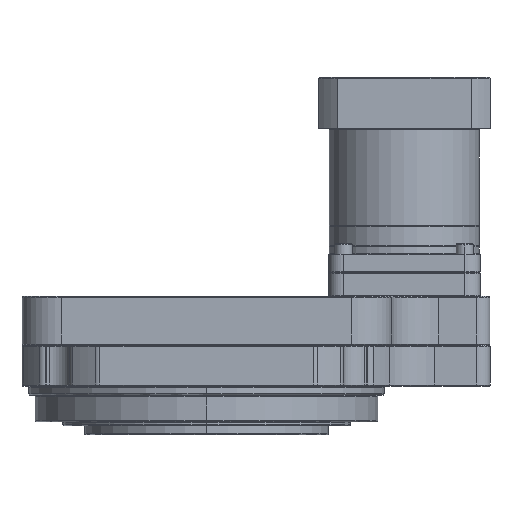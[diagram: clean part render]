
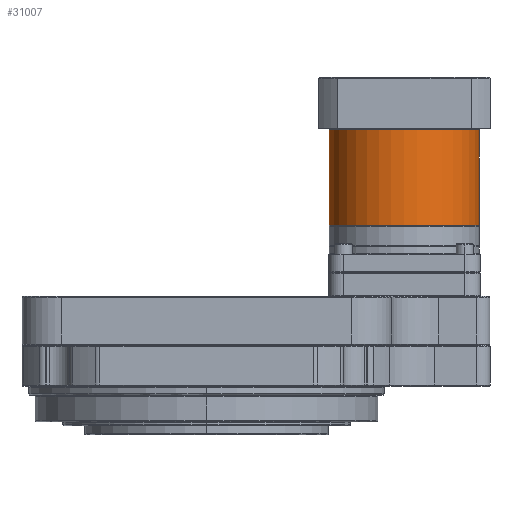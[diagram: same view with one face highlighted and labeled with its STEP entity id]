
A CAD part, left-side view. The second image highlights one B-rep face of the part: STEP entity #31007.
In plain terms, the highlighted cylindrical face has radius 57 mm (diameter 114 mm), a partial arc.
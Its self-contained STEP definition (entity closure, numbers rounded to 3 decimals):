
#314 = CARTESIAN_POINT ( 'NONE',  ( 0., -93., 163.3 ) ) ;
#1710 = EDGE_CURVE ( 'NONE', #43738, #29828, #28799, .T. ) ;
#3390 = DIRECTION ( 'NONE',  ( 0., 0., -1. ) ) ;
#7821 = DIRECTION ( 'NONE',  ( 0., 0., -1. ) ) ;
#8290 = VECTOR ( 'NONE', #7821, 1000. ) ;
#9853 = CARTESIAN_POINT ( 'NONE',  ( 0., -150., 163.3 ) ) ;
#10665 = DIRECTION ( 'NONE',  ( 0., 0., -1. ) ) ;
#11865 = CIRCLE ( 'NONE', #37237, 57. ) ;
#12220 = AXIS2_PLACEMENT_3D ( 'NONE', #38125, #33646, #18269 ) ;
#12369 = EDGE_CURVE ( 'NONE', #31147, #45365, #41618, .T. ) ;
#13867 = CARTESIAN_POINT ( 'NONE',  ( 0., -150., 90.9 ) ) ;
#15769 = CARTESIAN_POINT ( 'NONE',  ( 0., -93., 90.9 ) ) ;
#17313 = DIRECTION ( 'NONE',  ( 0., 0., -1. ) ) ;
#18269 = DIRECTION ( 'NONE',  ( 0., 1., 0. ) ) ;
#21027 = DIRECTION ( 'NONE',  ( 0., 1., 0. ) ) ;
#21204 = AXIS2_PLACEMENT_3D ( 'NONE', #9853, #17313, #21027 ) ;
#22980 = CYLINDRICAL_SURFACE ( 'NONE', #12220, 57. ) ;
#23566 = CIRCLE ( 'NONE', #21204, 57. ) ;
#25180 = CARTESIAN_POINT ( 'NONE',  ( 0., -207., 163.3 ) ) ;
#25328 = CARTESIAN_POINT ( 'NONE',  ( 0., -93., 90.6 ) ) ;
#25541 = EDGE_LOOP ( 'NONE', ( #45776, #46514, #43918, #40342 ) ) ;
#26514 = EDGE_CURVE ( 'NONE', #31147, #43738, #23566, .T. ) ;
#28799 = LINE ( 'NONE', #25328, #40688 ) ;
#29660 = CARTESIAN_POINT ( 'NONE',  ( 0., -207., 90.6 ) ) ;
#29828 = VERTEX_POINT ( 'NONE', #15769 ) ;
#31007 = ADVANCED_FACE ( 'NONE', ( #37138 ), #22980, .T. ) ;
#31147 = VERTEX_POINT ( 'NONE', #25180 ) ;
#33646 = DIRECTION ( 'NONE',  ( 0., 0., -1. ) ) ;
#37138 = FACE_OUTER_BOUND ( 'NONE', #25541, .T. ) ;
#37237 = AXIS2_PLACEMENT_3D ( 'NONE', #13867, #3390, #48142 ) ;
#38125 = CARTESIAN_POINT ( 'NONE',  ( 0., -150., 90.6 ) ) ;
#40342 = ORIENTED_EDGE ( 'NONE', *, *, #48520, .F. ) ;
#40688 = VECTOR ( 'NONE', #10665, 1000. ) ;
#41618 = LINE ( 'NONE', #29660, #8290 ) ;
#43738 = VERTEX_POINT ( 'NONE', #314 ) ;
#43918 = ORIENTED_EDGE ( 'NONE', *, *, #1710, .T. ) ;
#45365 = VERTEX_POINT ( 'NONE', #46965 ) ;
#45776 = ORIENTED_EDGE ( 'NONE', *, *, #12369, .F. ) ;
#46514 = ORIENTED_EDGE ( 'NONE', *, *, #26514, .T. ) ;
#46965 = CARTESIAN_POINT ( 'NONE',  ( 0., -207., 90.9 ) ) ;
#48142 = DIRECTION ( 'NONE',  ( 0., 1., 0. ) ) ;
#48520 = EDGE_CURVE ( 'NONE', #45365, #29828, #11865, .T. ) ;
